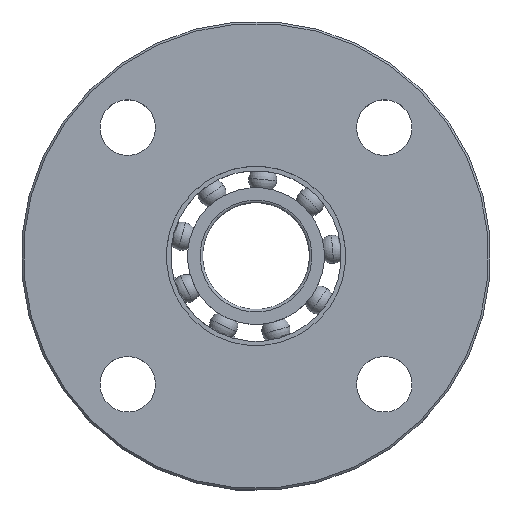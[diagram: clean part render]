
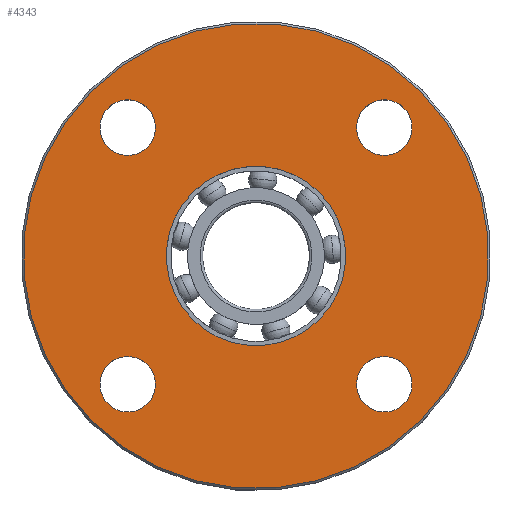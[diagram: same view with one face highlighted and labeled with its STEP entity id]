
A CAD part, top view. The second image highlights one B-rep face of the part: STEP entity #4343.
In plain terms, the highlighted planar face has unit normal (0, 0, 1).
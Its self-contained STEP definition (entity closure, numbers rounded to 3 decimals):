
#41 = CARTESIAN_POINT ( 'NONE',  ( 34.648, 34.648, 354.5 ) ) ;
#85 = EDGE_CURVE ( 'NONE', #4246, #4318, #680, .T. ) ;
#177 = DIRECTION ( 'NONE',  ( -0.707, 0.707, 0. ) ) ;
#222 = PLANE ( 'NONE',  #2417 ) ;
#310 = DIRECTION ( 'NONE',  ( 0.707, 0.707, 0. ) ) ;
#312 = CARTESIAN_POINT ( 'NONE',  ( -34.648, -34.648, 354.5 ) ) ;
#422 = AXIS2_PLACEMENT_3D ( 'NONE', #3191, #1193, #1793 ) ;
#456 = DIRECTION ( 'NONE',  ( 0., 0., -1. ) ) ;
#463 = FACE_BOUND ( 'NONE', #2738, .T. ) ;
#483 = DIRECTION ( 'NONE',  ( 0., 0., -1. ) ) ;
#518 = AXIS2_PLACEMENT_3D ( 'NONE', #1297, #3675, #177 ) ;
#543 = CIRCLE ( 'NONE', #1725, 54.5 ) ;
#562 = AXIS2_PLACEMENT_3D ( 'NONE', #3076, #2731, #4138 ) ;
#584 = DIRECTION ( 'NONE',  ( 0., 0., -1. ) ) ;
#607 = CIRCLE ( 'NONE', #3976, 6.5 ) ;
#636 = EDGE_CURVE ( 'NONE', #1214, #3824, #3836, .T. ) ;
#654 = DIRECTION ( 'NONE',  ( 0.707, 0.707, 0. ) ) ;
#680 = CIRCLE ( 'NONE', #518, 21. ) ;
#683 = DIRECTION ( 'NONE',  ( -0.707, -0.707, 0. ) ) ;
#752 = AXIS2_PLACEMENT_3D ( 'NONE', #4007, #3316, #852 ) ;
#790 = EDGE_CURVE ( 'NONE', #4258, #3805, #2800, .T. ) ;
#818 = EDGE_CURVE ( 'NONE', #4318, #4246, #1783, .T. ) ;
#820 = ORIENTED_EDGE ( 'NONE', *, *, #1082, .T. ) ;
#852 = DIRECTION ( 'NONE',  ( 0.707, -0.707, 0. ) ) ;
#874 = ORIENTED_EDGE ( 'NONE', *, *, #636, .F. ) ;
#880 = EDGE_CURVE ( 'NONE', #4045, #3355, #2734, .T. ) ;
#956 = AXIS2_PLACEMENT_3D ( 'NONE', #3948, #456, #1858 ) ;
#1000 = CARTESIAN_POINT ( 'NONE',  ( 38.537, -38.537, 354.5 ) ) ;
#1013 = ORIENTED_EDGE ( 'NONE', *, *, #1267, .T. ) ;
#1082 = EDGE_CURVE ( 'NONE', #3317, #1689, #3909, .T. ) ;
#1098 = CIRCLE ( 'NONE', #3655, 6.5 ) ;
#1145 = CARTESIAN_POINT ( 'NONE',  ( 14.849, -14.849, 354.5 ) ) ;
#1159 = CIRCLE ( 'NONE', #562, 6.5 ) ;
#1160 = FACE_BOUND ( 'NONE', #2169, .T. ) ;
#1193 = DIRECTION ( 'NONE',  ( 0., 0., -1. ) ) ;
#1214 = VERTEX_POINT ( 'NONE', #3704 ) ;
#1267 = EDGE_CURVE ( 'NONE', #3805, #4258, #607, .T. ) ;
#1297 = CARTESIAN_POINT ( 'NONE',  ( 0., 0., 354.5 ) ) ;
#1318 = FACE_BOUND ( 'NONE', #2405, .T. ) ;
#1415 = AXIS2_PLACEMENT_3D ( 'NONE', #3224, #3526, #683 ) ;
#1499 = CARTESIAN_POINT ( 'NONE',  ( 30.052, -30.052, 354.5 ) ) ;
#1576 = VERTEX_POINT ( 'NONE', #2853 ) ;
#1689 = VERTEX_POINT ( 'NONE', #4386 ) ;
#1725 = AXIS2_PLACEMENT_3D ( 'NONE', #4241, #3575, #3958 ) ;
#1761 = CARTESIAN_POINT ( 'NONE',  ( -25.456, -25.456, 354.5 ) ) ;
#1783 = CIRCLE ( 'NONE', #3315, 21. ) ;
#1793 = DIRECTION ( 'NONE',  ( 0.707, -0.707, 0. ) ) ;
#1858 = DIRECTION ( 'NONE',  ( -0.707, 0.707, 0. ) ) ;
#1882 = EDGE_LOOP ( 'NONE', ( #3855, #874 ) ) ;
#2030 = CARTESIAN_POINT ( 'NONE',  ( -30.052, -30.052, 354.5 ) ) ;
#2169 = EDGE_LOOP ( 'NONE', ( #4551, #3869 ) ) ;
#2247 = ORIENTED_EDGE ( 'NONE', *, *, #3030, .T. ) ;
#2251 = ORIENTED_EDGE ( 'NONE', *, *, #3370, .T. ) ;
#2270 = EDGE_CURVE ( 'NONE', #3824, #1214, #543, .T. ) ;
#2329 = ORIENTED_EDGE ( 'NONE', *, *, #2934, .T. ) ;
#2347 = DIRECTION ( 'NONE',  ( -0.707, -0.707, 0. ) ) ;
#2360 = CARTESIAN_POINT ( 'NONE',  ( 25.456, 25.456, 354.5 ) ) ;
#2372 = FACE_BOUND ( 'NONE', #3940, .T. ) ;
#2405 = EDGE_LOOP ( 'NONE', ( #2251, #2329 ) ) ;
#2417 = AXIS2_PLACEMENT_3D ( 'NONE', #3239, #2556, #2347 ) ;
#2540 = ORIENTED_EDGE ( 'NONE', *, *, #85, .T. ) ;
#2556 = DIRECTION ( 'NONE',  ( 0., 0., 1. ) ) ;
#2731 = DIRECTION ( 'NONE',  ( 0., 0., -1. ) ) ;
#2734 = CIRCLE ( 'NONE', #1415, 6.5 ) ;
#2738 = EDGE_LOOP ( 'NONE', ( #820, #2247 ) ) ;
#2748 = DIRECTION ( 'NONE',  ( 0., 0., -1. ) ) ;
#2800 = CIRCLE ( 'NONE', #4203, 6.5 ) ;
#2853 = CARTESIAN_POINT ( 'NONE',  ( -25.456, 25.456, 354.5 ) ) ;
#2882 = ORIENTED_EDGE ( 'NONE', *, *, #818, .T. ) ;
#2934 = EDGE_CURVE ( 'NONE', #2953, #1576, #1098, .T. ) ;
#2953 = VERTEX_POINT ( 'NONE', #3782 ) ;
#3030 = EDGE_CURVE ( 'NONE', #1689, #3317, #3354, .T. ) ;
#3055 = DIRECTION ( 'NONE',  ( 0., 0., -1. ) ) ;
#3076 = CARTESIAN_POINT ( 'NONE',  ( 30.052, 30.052, 354.5 ) ) ;
#3089 = CARTESIAN_POINT ( 'NONE',  ( 0., 0., 354.5 ) ) ;
#3191 = CARTESIAN_POINT ( 'NONE',  ( -30.052, 30.052, 354.5 ) ) ;
#3224 = CARTESIAN_POINT ( 'NONE',  ( 30.052, 30.052, 354.5 ) ) ;
#3239 = CARTESIAN_POINT ( 'NONE',  ( 0., 0., 354.5 ) ) ;
#3249 = ORIENTED_EDGE ( 'NONE', *, *, #790, .T. ) ;
#3295 = EDGE_CURVE ( 'NONE', #3355, #4045, #1159, .T. ) ;
#3315 = AXIS2_PLACEMENT_3D ( 'NONE', #3089, #584, #4103 ) ;
#3316 = DIRECTION ( 'NONE',  ( 0., 0., -1. ) ) ;
#3317 = VERTEX_POINT ( 'NONE', #4289 ) ;
#3353 = DIRECTION ( 'NONE',  ( 0., 0., -1. ) ) ;
#3354 = CIRCLE ( 'NONE', #956, 6.5 ) ;
#3355 = VERTEX_POINT ( 'NONE', #41 ) ;
#3370 = EDGE_CURVE ( 'NONE', #1576, #2953, #4531, .T. ) ;
#3404 = EDGE_LOOP ( 'NONE', ( #3249, #1013 ) ) ;
#3526 = DIRECTION ( 'NONE',  ( 0., 0., -1. ) ) ;
#3575 = DIRECTION ( 'NONE',  ( 0., 0., -1. ) ) ;
#3612 = CARTESIAN_POINT ( 'NONE',  ( -14.849, 14.849, 354.5 ) ) ;
#3655 = AXIS2_PLACEMENT_3D ( 'NONE', #4118, #3055, #4439 ) ;
#3675 = DIRECTION ( 'NONE',  ( 0., 0., -1. ) ) ;
#3704 = CARTESIAN_POINT ( 'NONE',  ( -38.537, 38.537, 354.5 ) ) ;
#3782 = CARTESIAN_POINT ( 'NONE',  ( -34.648, 34.648, 354.5 ) ) ;
#3805 = VERTEX_POINT ( 'NONE', #312 ) ;
#3824 = VERTEX_POINT ( 'NONE', #1000 ) ;
#3836 = CIRCLE ( 'NONE', #752, 54.5 ) ;
#3855 = ORIENTED_EDGE ( 'NONE', *, *, #2270, .F. ) ;
#3869 = ORIENTED_EDGE ( 'NONE', *, *, #3295, .T. ) ;
#3909 = CIRCLE ( 'NONE', #4273, 6.5 ) ;
#3940 = EDGE_LOOP ( 'NONE', ( #2882, #2540 ) ) ;
#3948 = CARTESIAN_POINT ( 'NONE',  ( 30.052, -30.052, 354.5 ) ) ;
#3954 = FACE_OUTER_BOUND ( 'NONE', #1882, .T. ) ;
#3955 = DIRECTION ( 'NONE',  ( -0.707, 0.707, 0. ) ) ;
#3958 = DIRECTION ( 'NONE',  ( 0.707, -0.707, 0. ) ) ;
#3976 = AXIS2_PLACEMENT_3D ( 'NONE', #2030, #3353, #654 ) ;
#4007 = CARTESIAN_POINT ( 'NONE',  ( 0., 0., 354.5 ) ) ;
#4045 = VERTEX_POINT ( 'NONE', #2360 ) ;
#4103 = DIRECTION ( 'NONE',  ( -0.707, 0.707, 0. ) ) ;
#4118 = CARTESIAN_POINT ( 'NONE',  ( -30.052, 30.052, 354.5 ) ) ;
#4138 = DIRECTION ( 'NONE',  ( -0.707, -0.707, 0. ) ) ;
#4203 = AXIS2_PLACEMENT_3D ( 'NONE', #4474, #2748, #310 ) ;
#4241 = CARTESIAN_POINT ( 'NONE',  ( 0., 0., 354.5 ) ) ;
#4246 = VERTEX_POINT ( 'NONE', #1145 ) ;
#4258 = VERTEX_POINT ( 'NONE', #1761 ) ;
#4273 = AXIS2_PLACEMENT_3D ( 'NONE', #1499, #483, #3955 ) ;
#4289 = CARTESIAN_POINT ( 'NONE',  ( 25.456, -25.456, 354.5 ) ) ;
#4318 = VERTEX_POINT ( 'NONE', #3612 ) ;
#4343 = ADVANCED_FACE ( 'NONE', ( #463, #1160, #4454, #1318, #2372, #3954 ), #222, .T. ) ;
#4386 = CARTESIAN_POINT ( 'NONE',  ( 34.648, -34.648, 354.5 ) ) ;
#4439 = DIRECTION ( 'NONE',  ( 0.707, -0.707, 0. ) ) ;
#4454 = FACE_BOUND ( 'NONE', #3404, .T. ) ;
#4474 = CARTESIAN_POINT ( 'NONE',  ( -30.052, -30.052, 354.5 ) ) ;
#4531 = CIRCLE ( 'NONE', #422, 6.5 ) ;
#4551 = ORIENTED_EDGE ( 'NONE', *, *, #880, .T. ) ;
